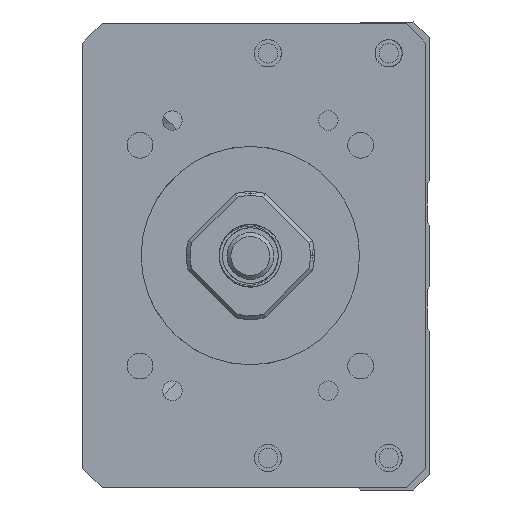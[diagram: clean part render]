
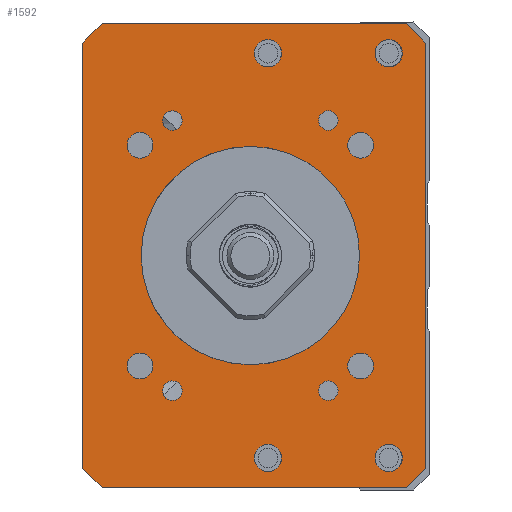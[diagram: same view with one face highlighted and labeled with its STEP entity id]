
A CAD part, left-side view. The second image highlights one B-rep face of the part: STEP entity #1592.
In plain terms, the highlighted planar face has unit normal (-1, 0, 0).
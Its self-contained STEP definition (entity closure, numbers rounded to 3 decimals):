
#572=FACE_BOUND('',#3104,.T.);
#573=FACE_BOUND('',#3105,.T.);
#574=FACE_BOUND('',#3106,.T.);
#575=FACE_BOUND('',#3107,.T.);
#576=FACE_BOUND('',#3108,.T.);
#577=FACE_BOUND('',#3109,.T.);
#578=FACE_BOUND('',#3110,.T.);
#579=FACE_BOUND('',#3111,.T.);
#580=FACE_BOUND('',#3112,.T.);
#581=FACE_BOUND('',#3113,.T.);
#582=FACE_BOUND('',#3114,.T.);
#583=FACE_BOUND('',#3115,.T.);
#584=FACE_BOUND('',#3116,.T.);
#585=FACE_BOUND('',#3117,.T.);
#1056=CIRCLE('',#10816,14.);
#1065=CIRCLE('',#10827,1.65);
#1066=CIRCLE('',#10828,1.65);
#1067=CIRCLE('',#10829,1.65);
#1068=CIRCLE('',#10830,1.65);
#1069=CIRCLE('',#10831,1.25);
#1070=CIRCLE('',#10832,1.75);
#1071=CIRCLE('',#10833,1.25);
#1072=CIRCLE('',#10834,1.75);
#1073=CIRCLE('',#10835,1.25);
#1074=CIRCLE('',#10836,1.75);
#1075=CIRCLE('',#10837,1.75);
#1076=CIRCLE('',#10838,1.25);
#1592=ADVANCED_FACE('',(#572,#573,#574,#575,#576,#577,#578,#579,#580,#581,
#582,#583,#584,#585),#2093,.F.);
#2093=PLANE('',#10839);
#3104=EDGE_LOOP('',(#5127));
#3105=EDGE_LOOP('',(#5128));
#3106=EDGE_LOOP('',(#5129));
#3107=EDGE_LOOP('',(#5130));
#3108=EDGE_LOOP('',(#5131));
#3109=EDGE_LOOP('',(#5132));
#3110=EDGE_LOOP('',(#5133));
#3111=EDGE_LOOP('',(#5134));
#3112=EDGE_LOOP('',(#5135));
#3113=EDGE_LOOP('',(#5136,#5137,#5138,#5139,#5140,#5141,#5142,#5143));
#3114=EDGE_LOOP('',(#5144));
#3115=EDGE_LOOP('',(#5145));
#3116=EDGE_LOOP('',(#5146));
#3117=EDGE_LOOP('',(#5147));
#5127=ORIENTED_EDGE('',*,*,#8038,.F.);
#5128=ORIENTED_EDGE('',*,*,#8039,.F.);
#5129=ORIENTED_EDGE('',*,*,#8040,.F.);
#5130=ORIENTED_EDGE('',*,*,#8041,.F.);
#5131=ORIENTED_EDGE('',*,*,#8042,.F.);
#5132=ORIENTED_EDGE('',*,*,#8043,.T.);
#5133=ORIENTED_EDGE('',*,*,#8044,.F.);
#5134=ORIENTED_EDGE('',*,*,#8045,.F.);
#5135=ORIENTED_EDGE('',*,*,#8046,.F.);
#5136=ORIENTED_EDGE('',*,*,#8035,.T.);
#5137=ORIENTED_EDGE('',*,*,#8047,.T.);
#5138=ORIENTED_EDGE('',*,*,#8048,.F.);
#5139=ORIENTED_EDGE('',*,*,#8049,.T.);
#5140=ORIENTED_EDGE('',*,*,#8050,.F.);
#5141=ORIENTED_EDGE('',*,*,#8051,.T.);
#5142=ORIENTED_EDGE('',*,*,#8052,.T.);
#5143=ORIENTED_EDGE('',*,*,#8053,.T.);
#5144=ORIENTED_EDGE('',*,*,#8054,.F.);
#5145=ORIENTED_EDGE('',*,*,#8055,.F.);
#5146=ORIENTED_EDGE('',*,*,#8056,.F.);
#5147=ORIENTED_EDGE('',*,*,#8015,.F.);
#6819=VERTEX_POINT('',#15933);
#6839=VERTEX_POINT('',#16009);
#6840=VERTEX_POINT('',#16011);
#6842=VERTEX_POINT('',#16017);
#6843=VERTEX_POINT('',#16019);
#6844=VERTEX_POINT('',#16021);
#6845=VERTEX_POINT('',#16023);
#6846=VERTEX_POINT('',#16025);
#6847=VERTEX_POINT('',#16027);
#6848=VERTEX_POINT('',#16029);
#6849=VERTEX_POINT('',#16031);
#6850=VERTEX_POINT('',#16033);
#6851=VERTEX_POINT('',#16035);
#6852=VERTEX_POINT('',#16037);
#6853=VERTEX_POINT('',#16039);
#6854=VERTEX_POINT('',#16041);
#6855=VERTEX_POINT('',#16043);
#6856=VERTEX_POINT('',#16045);
#6857=VERTEX_POINT('',#16048);
#6858=VERTEX_POINT('',#16050);
#6859=VERTEX_POINT('',#16052);
#8015=EDGE_CURVE('',#6819,#6819,#1056,.T.);
#8035=EDGE_CURVE('',#6840,#6839,#9180,.T.);
#8038=EDGE_CURVE('',#6842,#6842,#1065,.T.);
#8039=EDGE_CURVE('',#6843,#6843,#1066,.T.);
#8040=EDGE_CURVE('',#6844,#6844,#1067,.T.);
#8041=EDGE_CURVE('',#6845,#6845,#1068,.T.);
#8042=EDGE_CURVE('',#6846,#6846,#1069,.T.);
#8043=EDGE_CURVE('',#6847,#6847,#1070,.T.);
#8044=EDGE_CURVE('',#6848,#6848,#1071,.T.);
#8045=EDGE_CURVE('',#6849,#6849,#1072,.T.);
#8046=EDGE_CURVE('',#6850,#6850,#1073,.T.);
#8047=EDGE_CURVE('',#6839,#6851,#9182,.T.);
#8048=EDGE_CURVE('',#6852,#6851,#9183,.T.);
#8049=EDGE_CURVE('',#6852,#6853,#9184,.T.);
#8050=EDGE_CURVE('',#6854,#6853,#9185,.T.);
#8051=EDGE_CURVE('',#6854,#6855,#9186,.T.);
#8052=EDGE_CURVE('',#6855,#6856,#9187,.T.);
#8053=EDGE_CURVE('',#6856,#6840,#9188,.T.);
#8054=EDGE_CURVE('',#6857,#6857,#1074,.T.);
#8055=EDGE_CURVE('',#6858,#6858,#1075,.T.);
#8056=EDGE_CURVE('',#6859,#6859,#1076,.T.);
#9180=LINE('',#16010,#10022);
#9182=LINE('',#16034,#10024);
#9183=LINE('',#16036,#10025);
#9184=LINE('',#16038,#10026);
#9185=LINE('',#16040,#10027);
#9186=LINE('',#16042,#10028);
#9187=LINE('',#16044,#10029);
#9188=LINE('',#16046,#10030);
#10022=VECTOR('',#12953,1.);
#10024=VECTOR('',#12977,1.);
#10025=VECTOR('',#12978,1.);
#10026=VECTOR('',#12979,1.);
#10027=VECTOR('',#12980,1.);
#10028=VECTOR('',#12981,1.);
#10029=VECTOR('',#12982,1.);
#10030=VECTOR('',#12983,1.);
#10816=AXIS2_PLACEMENT_3D('',#15932,#12927,#12928);
#10827=AXIS2_PLACEMENT_3D('',#16016,#12959,#12960);
#10828=AXIS2_PLACEMENT_3D('',#16018,#12961,#12962);
#10829=AXIS2_PLACEMENT_3D('',#16020,#12963,#12964);
#10830=AXIS2_PLACEMENT_3D('',#16022,#12965,#12966);
#10831=AXIS2_PLACEMENT_3D('',#16024,#12967,#12968);
#10832=AXIS2_PLACEMENT_3D('',#16026,#12969,#12970);
#10833=AXIS2_PLACEMENT_3D('',#16028,#12971,#12972);
#10834=AXIS2_PLACEMENT_3D('',#16030,#12973,#12974);
#10835=AXIS2_PLACEMENT_3D('',#16032,#12975,#12976);
#10836=AXIS2_PLACEMENT_3D('',#16047,#12984,#12985);
#10837=AXIS2_PLACEMENT_3D('',#16049,#12986,#12987);
#10838=AXIS2_PLACEMENT_3D('',#16051,#12988,#12989);
#10839=AXIS2_PLACEMENT_3D('',#16053,#12990,#12991);
#12927=DIRECTION('',(-1.,0.,0.));
#12928=DIRECTION('',(0.,1.,0.));
#12953=DIRECTION('',(0.,0.,-1.));
#12959=DIRECTION('',(-1.,0.,0.));
#12960=DIRECTION('',(0.,0.,1.));
#12961=DIRECTION('',(-1.,0.,0.));
#12962=DIRECTION('',(0.,0.,1.));
#12963=DIRECTION('',(-1.,0.,0.));
#12964=DIRECTION('',(0.,0.,1.));
#12965=DIRECTION('',(-1.,0.,0.));
#12966=DIRECTION('',(0.,0.,1.));
#12967=DIRECTION('',(-1.,0.,0.));
#12968=DIRECTION('',(0.,1.,0.));
#12969=DIRECTION('',(1.,0.,0.));
#12970=DIRECTION('',(0.,0.,1.));
#12971=DIRECTION('',(-1.,0.,0.));
#12972=DIRECTION('',(0.,1.,0.));
#12973=DIRECTION('',(-1.,0.,0.));
#12974=DIRECTION('',(0.,0.,1.));
#12975=DIRECTION('',(-1.,0.,0.));
#12976=DIRECTION('',(0.,1.,0.));
#12977=DIRECTION('',(0.,-0.707,-0.707));
#12978=DIRECTION('',(0.,1.,0.));
#12979=DIRECTION('',(0.,-0.707,0.707));
#12980=DIRECTION('',(0.,0.,-1.));
#12981=DIRECTION('',(0.,0.707,0.707));
#12982=DIRECTION('',(0.,1.,0.));
#12983=DIRECTION('',(0.,0.707,-0.707));
#12984=DIRECTION('',(-1.,0.,0.));
#12985=DIRECTION('',(0.,0.,1.));
#12986=DIRECTION('',(-1.,0.,0.));
#12987=DIRECTION('',(0.,0.,1.));
#12988=DIRECTION('',(-1.,0.,0.));
#12989=DIRECTION('',(0.,1.,0.));
#12990=DIRECTION('',(1.,0.,0.));
#12991=DIRECTION('',(0.,1.,0.));
#15932=CARTESIAN_POINT('',(-211.,0.,-400.));
#15933=CARTESIAN_POINT('',(-211.,14.,-400.));
#16009=CARTESIAN_POINT('',(-211.,21.499,-427.25));
#16010=CARTESIAN_POINT('',(-211.,21.499,-370.25));
#16011=CARTESIAN_POINT('',(-211.,21.499,-372.75));
#16016=CARTESIAN_POINT('',(-211.,14.142,-385.858));
#16017=CARTESIAN_POINT('',(-211.,14.142,-384.208));
#16018=CARTESIAN_POINT('',(-211.,-14.142,-385.858));
#16019=CARTESIAN_POINT('',(-211.,-14.142,-384.208));
#16020=CARTESIAN_POINT('',(-211.,14.142,-414.142));
#16021=CARTESIAN_POINT('',(-211.,14.142,-412.492));
#16022=CARTESIAN_POINT('',(-211.,-14.142,-414.142));
#16023=CARTESIAN_POINT('',(-211.,-14.142,-412.492));
#16024=CARTESIAN_POINT('',(-211.,-10.,-417.321));
#16025=CARTESIAN_POINT('',(-211.,-8.75,-417.321));
#16026=CARTESIAN_POINT('',(-211.,-2.25,-425.936));
#16027=CARTESIAN_POINT('',(-211.,-2.25,-424.186));
#16028=CARTESIAN_POINT('',(-211.,10.,-382.679));
#16029=CARTESIAN_POINT('',(-211.,11.25,-382.679));
#16030=CARTESIAN_POINT('',(-211.,-2.25,-374.064));
#16031=CARTESIAN_POINT('',(-211.,-2.25,-372.314));
#16032=CARTESIAN_POINT('',(-211.,10.,-417.321));
#16033=CARTESIAN_POINT('',(-211.,11.25,-417.321));
#16034=CARTESIAN_POINT('',(-211.,18.999,-429.75));
#16035=CARTESIAN_POINT('',(-211.,18.999,-429.75));
#16036=CARTESIAN_POINT('',(-211.,-22.501,-429.75));
#16037=CARTESIAN_POINT('',(-211.,-20.001,-429.75));
#16038=CARTESIAN_POINT('',(-211.,-22.501,-427.25));
#16039=CARTESIAN_POINT('',(-211.,-22.501,-427.25));
#16040=CARTESIAN_POINT('',(-211.,-22.501,-370.25));
#16041=CARTESIAN_POINT('',(-211.,-22.501,-372.75));
#16042=CARTESIAN_POINT('',(-211.,-22.501,-372.75));
#16043=CARTESIAN_POINT('',(-211.,-20.001,-370.25));
#16044=CARTESIAN_POINT('',(-211.,-22.501,-370.25));
#16045=CARTESIAN_POINT('',(-211.,18.999,-370.25));
#16046=CARTESIAN_POINT('',(-211.,18.999,-370.25));
#16047=CARTESIAN_POINT('',(-211.,-17.75,-374.064));
#16048=CARTESIAN_POINT('',(-211.,-17.75,-372.314));
#16049=CARTESIAN_POINT('',(-211.,-17.75,-425.936));
#16050=CARTESIAN_POINT('',(-211.,-17.75,-424.186));
#16051=CARTESIAN_POINT('',(-211.,-10.,-382.679));
#16052=CARTESIAN_POINT('',(-211.,-8.75,-382.679));
#16053=CARTESIAN_POINT('',(-211.,-22.501,-370.25));
